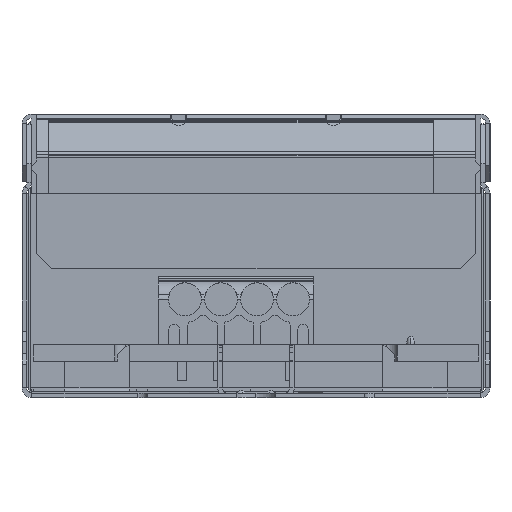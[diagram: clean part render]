
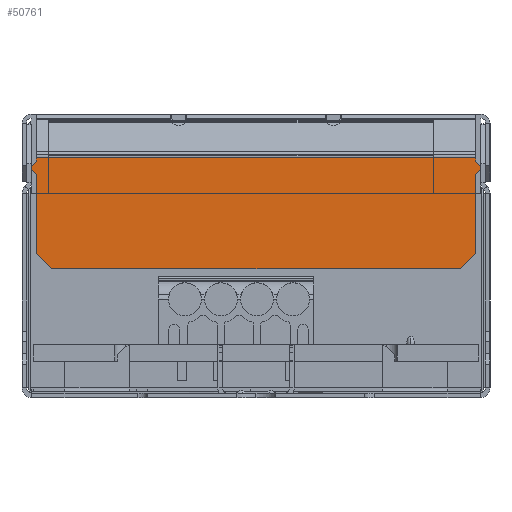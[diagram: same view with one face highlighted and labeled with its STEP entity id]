
A CAD part, left-side view. The second image highlights one B-rep face of the part: STEP entity #50761.
In plain terms, the highlighted planar face has unit normal (-1, 0, 0).
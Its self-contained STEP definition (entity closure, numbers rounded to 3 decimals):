
#513 = VECTOR ( 'NONE', #67081, 1000. ) ;
#1036 = LINE ( 'NONE', #38577, #11571 ) ;
#1447 = LINE ( 'NONE', #22896, #63684 ) ;
#1500 = EDGE_CURVE ( 'NONE', #8577, #19743, #33499, .T. ) ;
#1956 = ORIENTED_EDGE ( 'NONE', *, *, #70229, .T. ) ;
#2050 = DIRECTION ( 'NONE',  ( 0., 0., -1. ) ) ;
#2065 = CARTESIAN_POINT ( 'NONE',  ( -153.515, -21.8, -22.513 ) ) ;
#3539 = CARTESIAN_POINT ( 'NONE',  ( -153.515, 19.8, 12.056 ) ) ;
#3839 = VERTEX_POINT ( 'NONE', #44040 ) ;
#4285 = VECTOR ( 'NONE', #66082, 1000. ) ;
#4567 = CARTESIAN_POINT ( 'NONE',  ( -153.515, -21.3, 22.473 ) ) ;
#5499 = EDGE_CURVE ( 'NONE', #43563, #8577, #28486, .T. ) ;
#6316 = DIRECTION ( 'NONE',  ( 0., 0.707, 0.707 ) ) ;
#6367 = LINE ( 'NONE', #38926, #57817 ) ;
#6729 = VERTEX_POINT ( 'NONE', #46298 ) ;
#7638 = FACE_OUTER_BOUND ( 'NONE', #41465, .T. ) ;
#7690 = LINE ( 'NONE', #46297, #43777 ) ;
#8577 = VERTEX_POINT ( 'NONE', #61123 ) ;
#8771 = ORIENTED_EDGE ( 'NONE', *, *, #1500, .F. ) ;
#10251 = VECTOR ( 'NONE', #51708, 1000. ) ;
#11039 = CARTESIAN_POINT ( 'NONE',  ( -153.515, 0., 22.836 ) ) ;
#11571 = VECTOR ( 'NONE', #28539, 1000. ) ;
#12421 = CARTESIAN_POINT ( 'NONE',  ( -153.515, 21.3, 12.056 ) ) ;
#12630 = CARTESIAN_POINT ( 'NONE',  ( -153.515, 21.3, 13.556 ) ) ;
#14771 = CARTESIAN_POINT ( 'NONE',  ( -153.515, 28.5, 12.056 ) ) ;
#15828 = ORIENTED_EDGE ( 'NONE', *, *, #30070, .T. ) ;
#16090 = EDGE_CURVE ( 'NONE', #3839, #62722, #49672, .T. ) ;
#16666 = ORIENTED_EDGE ( 'NONE', *, *, #30764, .F. ) ;
#17079 = ORIENTED_EDGE ( 'NONE', *, *, #43806, .F. ) ;
#17753 = VERTEX_POINT ( 'NONE', #64403 ) ;
#18666 = EDGE_CURVE ( 'NONE', #17753, #45990, #53535, .T. ) ;
#19340 = CARTESIAN_POINT ( 'NONE',  ( -153.515, 21.3, 13.556 ) ) ;
#19567 = VECTOR ( 'NONE', #2050, 1000. ) ;
#19743 = VERTEX_POINT ( 'NONE', #54715 ) ;
#20812 = ORIENTED_EDGE ( 'NONE', *, *, #61760, .F. ) ;
#21977 = LINE ( 'NONE', #60880, #66168 ) ;
#22134 = DIRECTION ( 'NONE',  ( 0., -1., 0. ) ) ;
#22805 = CARTESIAN_POINT ( 'NONE',  ( -153.515, -21.3, 22.473 ) ) ;
#22838 = DIRECTION ( 'NONE',  ( 0., 0., -1. ) ) ;
#22896 = CARTESIAN_POINT ( 'NONE',  ( -153.515, -21.3, 21.173 ) ) ;
#23168 = LINE ( 'NONE', #2065, #54409 ) ;
#23409 = DIRECTION ( 'NONE',  ( 0., -0.707, 0.707 ) ) ;
#23743 = CARTESIAN_POINT ( 'NONE',  ( -153.515, 0., 177.923 ) ) ;
#25253 = CARTESIAN_POINT ( 'NONE',  ( -153.515, 21.3, 22.473 ) ) ;
#26906 = LINE ( 'NONE', #14771, #55431 ) ;
#27881 = DIRECTION ( 'NONE',  ( 0., 0.707, -0.707 ) ) ;
#28486 = LINE ( 'NONE', #12421, #513 ) ;
#28501 = EDGE_CURVE ( 'NONE', #30212, #6729, #23168, .T. ) ;
#28506 = CARTESIAN_POINT ( 'NONE',  ( -153.515, -19.8, 12.056 ) ) ;
#28539 = DIRECTION ( 'NONE',  ( 0., -0.707, -0.707 ) ) ;
#28921 = CARTESIAN_POINT ( 'NONE',  ( -153.515, 21.95, 21.823 ) ) ;
#29032 = VERTEX_POINT ( 'NONE', #50151 ) ;
#29442 = DIRECTION ( 'NONE',  ( 1., 0., 0. ) ) ;
#29489 = DIRECTION ( 'NONE',  ( 0., 0., -1. ) ) ;
#29492 = ORIENTED_EDGE ( 'NONE', *, *, #49215, .T. ) ;
#30070 = EDGE_CURVE ( 'NONE', #43563, #63832, #44807, .T. ) ;
#30212 = VERTEX_POINT ( 'NONE', #30805 ) ;
#30764 = EDGE_CURVE ( 'NONE', #40604, #17753, #43224, .T. ) ;
#30805 = CARTESIAN_POINT ( 'NONE',  ( -153.515, -21.8, 21.672 ) ) ;
#32104 = EDGE_CURVE ( 'NONE', #29032, #35066, #7690, .T. ) ;
#32131 = CARTESIAN_POINT ( 'NONE',  ( -153.515, 21.3, 22.836 ) ) ;
#33032 = ORIENTED_EDGE ( 'NONE', *, *, #16090, .F. ) ;
#33344 = ORIENTED_EDGE ( 'NONE', *, *, #32104, .F. ) ;
#33499 = LINE ( 'NONE', #55289, #61999 ) ;
#34462 = PLANE ( 'NONE',  #36470 ) ;
#35066 = VERTEX_POINT ( 'NONE', #46433 ) ;
#36470 = AXIS2_PLACEMENT_3D ( 'NONE', #23743, #29442, #50188 ) ;
#36504 = ORIENTED_EDGE ( 'NONE', *, *, #52342, .T. ) ;
#37434 = EDGE_CURVE ( 'NONE', #30212, #29032, #1447, .T. ) ;
#38577 = CARTESIAN_POINT ( 'NONE',  ( -153.515, -21.95, 21.823 ) ) ;
#38926 = CARTESIAN_POINT ( 'NONE',  ( -153.515, 21.8, -22.513 ) ) ;
#39905 = VECTOR ( 'NONE', #22134, 1000. ) ;
#40604 = VERTEX_POINT ( 'NONE', #32131 ) ;
#41465 = EDGE_LOOP ( 'NONE', ( #33032, #29492, #8771, #64990, #15828, #1956, #36504, #33344, #47876, #43242, #17079, #68947, #16666, #20812 ) ) ;
#43224 = LINE ( 'NONE', #11039, #39905 ) ;
#43242 = ORIENTED_EDGE ( 'NONE', *, *, #28501, .T. ) ;
#43563 = VERTEX_POINT ( 'NONE', #19340 ) ;
#43777 = VECTOR ( 'NONE', #29489, 1000. ) ;
#43806 = EDGE_CURVE ( 'NONE', #45990, #6729, #1036, .T. ) ;
#44040 = CARTESIAN_POINT ( 'NONE',  ( -153.515, 21.8, 21.973 ) ) ;
#44807 = LINE ( 'NONE', #12630, #53541 ) ;
#45990 = VERTEX_POINT ( 'NONE', #22805 ) ;
#46297 = CARTESIAN_POINT ( 'NONE',  ( -153.515, -21.3, 12.056 ) ) ;
#46298 = CARTESIAN_POINT ( 'NONE',  ( -153.515, -21.8, 21.973 ) ) ;
#46433 = CARTESIAN_POINT ( 'NONE',  ( -153.515, -21.3, 13.556 ) ) ;
#47876 = ORIENTED_EDGE ( 'NONE', *, *, #37434, .F. ) ;
#49215 = EDGE_CURVE ( 'NONE', #3839, #19743, #6367, .T. ) ;
#49672 = LINE ( 'NONE', #28921, #4285 ) ;
#50151 = CARTESIAN_POINT ( 'NONE',  ( -153.515, -21.3, 21.173 ) ) ;
#50188 = DIRECTION ( 'NONE',  ( 0., 0., -1. ) ) ;
#50761 = ADVANCED_FACE ( 'NONE', ( #7638 ), #34462, .F. ) ;
#51708 = DIRECTION ( 'NONE',  ( 0., 0., 1. ) ) ;
#52342 = EDGE_CURVE ( 'NONE', #54759, #35066, #21977, .T. ) ;
#53448 = CARTESIAN_POINT ( 'NONE',  ( -153.515, 21.3, 22.473 ) ) ;
#53535 = LINE ( 'NONE', #4567, #19567 ) ;
#53541 = VECTOR ( 'NONE', #68010, 1000. ) ;
#53701 = DIRECTION ( 'NONE',  ( 0., -1., 0. ) ) ;
#54409 = VECTOR ( 'NONE', #67454, 1000. ) ;
#54715 = CARTESIAN_POINT ( 'NONE',  ( -153.515, 21.8, 21.672 ) ) ;
#54759 = VERTEX_POINT ( 'NONE', #28506 ) ;
#55289 = CARTESIAN_POINT ( 'NONE',  ( -153.515, 21.3, 21.173 ) ) ;
#55431 = VECTOR ( 'NONE', #53701, 1000. ) ;
#57817 = VECTOR ( 'NONE', #22838, 1000. ) ;
#60880 = CARTESIAN_POINT ( 'NONE',  ( -153.515, -19.8, 12.056 ) ) ;
#61123 = CARTESIAN_POINT ( 'NONE',  ( -153.515, 21.3, 21.173 ) ) ;
#61760 = EDGE_CURVE ( 'NONE', #62722, #40604, #62759, .T. ) ;
#61999 = VECTOR ( 'NONE', #6316, 1000. ) ;
#62722 = VERTEX_POINT ( 'NONE', #53448 ) ;
#62759 = LINE ( 'NONE', #25253, #10251 ) ;
#63684 = VECTOR ( 'NONE', #27881, 1000. ) ;
#63832 = VERTEX_POINT ( 'NONE', #3539 ) ;
#64403 = CARTESIAN_POINT ( 'NONE',  ( -153.515, -21.3, 22.836 ) ) ;
#64990 = ORIENTED_EDGE ( 'NONE', *, *, #5499, .F. ) ;
#66082 = DIRECTION ( 'NONE',  ( 0., -0.707, 0.707 ) ) ;
#66168 = VECTOR ( 'NONE', #23409, 1000. ) ;
#67081 = DIRECTION ( 'NONE',  ( 0., 0., 1. ) ) ;
#67454 = DIRECTION ( 'NONE',  ( 0., 0., 1. ) ) ;
#68010 = DIRECTION ( 'NONE',  ( 0., -0.707, -0.707 ) ) ;
#68947 = ORIENTED_EDGE ( 'NONE', *, *, #18666, .F. ) ;
#70229 = EDGE_CURVE ( 'NONE', #63832, #54759, #26906, .T. ) ;
